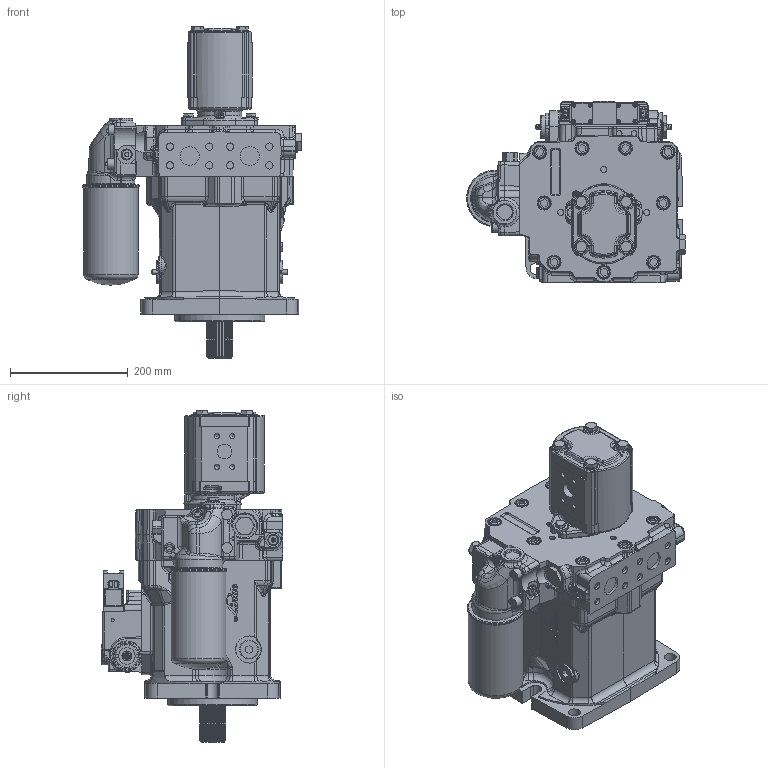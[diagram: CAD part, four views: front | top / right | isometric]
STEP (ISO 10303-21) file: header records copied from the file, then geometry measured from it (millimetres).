
FILE_DESCRIPTION(/* description */ (''),/* implementation_level */ '2;1');
FILE_NAME(/* name */ '2668055000m355.stp',/* time_stamp */ '2012-03-30T13:09:37+02:00',/* author */ (''),/* organization */ (''),/* preprocessor_version */ 'ST-DEVELOPER v11',/* originating_system */ 'SIEMENS PLM Software NX 7.5',/* authorisation */ '');
FILE_SCHEMA (('AUTOMOTIVE_DESIGN { 1 0 10303 214 1 1 1 1 }'));
Length unit declared in the file: millimetre
Products named in the file (1): 2668055000m355
Bounding box: 371.34 x 309 x 563.9 mm (x, y, z)
Volume: 21819367.9 mm3; surface area: 1076494.7 mm2
Topology: 10 solids, 18 shells, 4023 faces, 9642 edges, 5867 vertices
Faces by surface type: plane 1362, cylinder 1256, bspline 489, cone 316, torus 297, extrusion 124, revolution 98, sphere 81
Full cylindrical faces by diameter (mm): 3 x2, 3.3 x8, 3.464 x8, 3.838 x8, 4 x2, 4.5 x8, 5 x10, 6 x12, 6.8 x8, 7 x8, 8 x10, 8.5 x10, 9 x4, 9.2 x4, 10 x6, 10.2 x8, 10.5 x2, 10.579 x1, 11 x9, 11.7 x4, 12 x4, 12.25 x5, 12.376 x8, 12.5 x2, 13 x7, 13.5 x4, 14 x9, 15 x2, 15.5 x9, 17 x3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
Entity records: 126898 total; most frequent: CARTESIAN_POINT 39682, DIRECTION 17792, ORIENTED_EDGE 17790, EDGE_CURVE 8895, AXIS2_PLACEMENT_3D 7075, VERTEX_POINT 5660, EDGE_LOOP 4790, ADVANCED_FACE 4023
